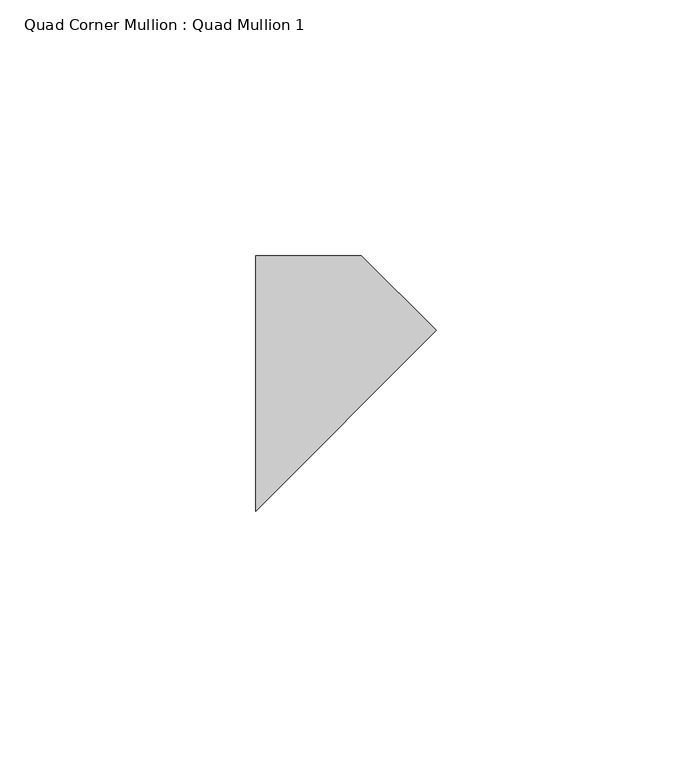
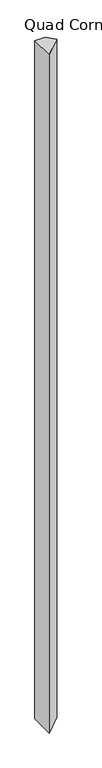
"""IFC4 building model written with IfcOpenShell, lengths in millimetres: member geometry, Quad Corner Mullion : Quad Mullion 1."""

from ifc_helpers import new_model, si_unit, frame, origin, place, context, project, spatial, polyline, outline, extrude, source, transform, mapped, element, save


def quad_corner_mullion_quad_mullion_1_6b124ba6(model_context):
    return source(origin(), model_context, "Body", "SweptSolid", [
        extrude(outline(polyline([(25.0, 10.3553391), (-10.3553391, -25.0), (-10.3553391, 25.0), (10.3553391, 25.0), (25.0, 10.3553391)])), frame((0.0, 0.0, -1450.0), z_axis=(0.0, 0.0, 1.0), x_axis=(1.0, 0.0, 0.0)), (0.0, 0.0, 1.0), 1450.0),
    ])


if __name__ == "__main__":
    model = new_model("IFC4")
    model_context = context("Model", 3, world=origin())
    ifc_project = project(units=[si_unit("LENGTHUNIT", "METRE", prefix="MILLI")], contexts=[model_context])
    site = spatial("IfcSite", under=ifc_project)
    building = spatial("IfcBuilding", under=site)
    placement = place(None, origin())
    quad_corner_mullion_quad_mullion_1_shape = quad_corner_mullion_quad_mullion_1_6b124ba6(model_context)
    element("IfcMember", 1, ObjectType="Quad Corner Mullion : Quad Mullion 1", at=placement, inside=building, context=model_context, shape_type="MappedRepresentation", body=[
        mapped(quad_corner_mullion_quad_mullion_1_shape, transform((0.0, 0.0, 0.0), x_axis=(1.0, 0.0, 0.0), y_axis=(0.0, 1.0, 0.0), z_axis=(0.0, 0.0, 1.0))),
    ])
    save(model, "model.ifc")
